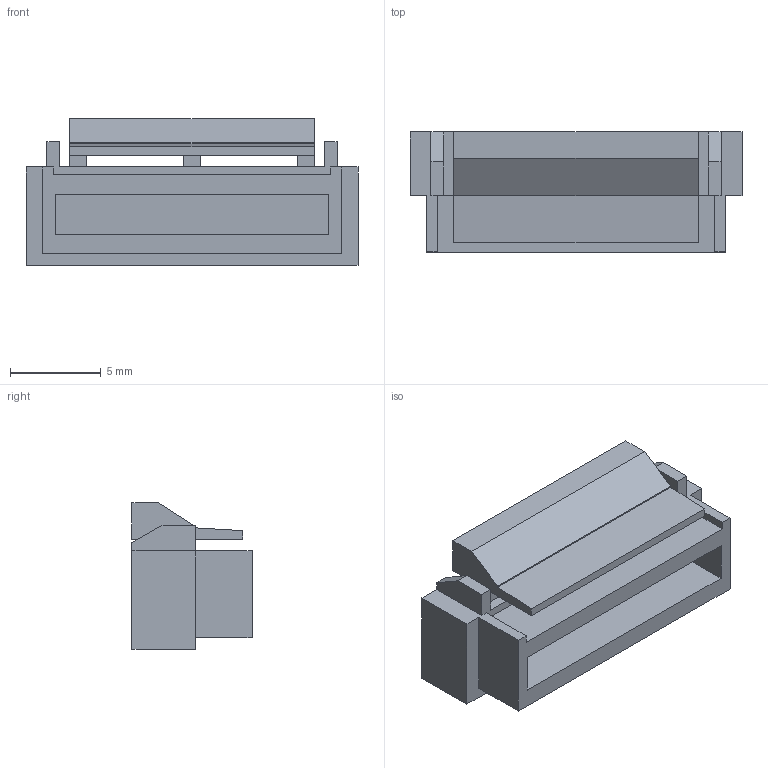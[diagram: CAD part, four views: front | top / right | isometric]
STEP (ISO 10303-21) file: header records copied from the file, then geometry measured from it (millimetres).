
FILE_DESCRIPTION (( 'STEP AP214' ), '1' );
FILE_NAME ('GHDR-24V-S-1(F).STEP', '2016-07-13T09:12:52', ( '' ), ( '' ), 'SwSTEP 2.0', 'SolidWorks 2012', '' );
FILE_SCHEMA (( 'AUTOMOTIVE_DESIGN' ));
Length unit declared in the file: millimetre
Products named in the file (1): GHDR-24V-S-1(F)
Bounding box: 18.25 x 6.6 x 8.05 mm (x, y, z)
Volume: 561.4 mm3; surface area: 864.9 mm2
Topology: 1 solids, 1 shells, 168 faces, 423 edges, 282 vertices
Faces by surface type: plane 168
Entity records: 4969 total; most frequent: CARTESIAN_POINT 874, ORIENTED_EDGE 846, DIRECTION 761, LINE 423, VECTOR 423, EDGE_CURVE 423, VERTEX_POINT 282, EDGE_LOOP 197
